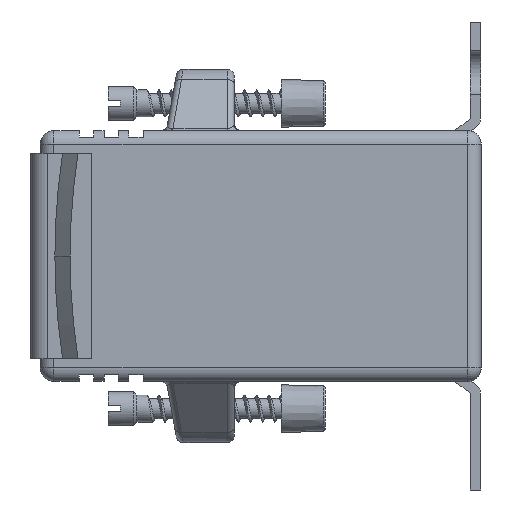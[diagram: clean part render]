
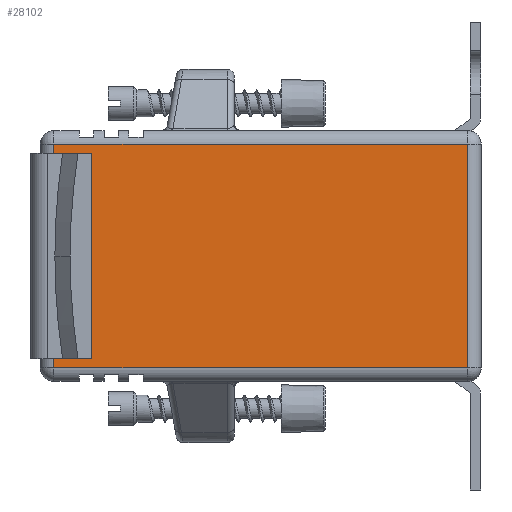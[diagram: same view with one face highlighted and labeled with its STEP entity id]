
A CAD part, left-side view. The second image highlights one B-rep face of the part: STEP entity #28102.
In plain terms, the highlighted planar face has unit normal (-1, 0, 0).
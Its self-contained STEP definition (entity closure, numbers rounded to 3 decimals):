
#2948 = ORIENTED_EDGE ( 'NONE', *, *, #55529, .F. ) ;
#2958 = ORIENTED_EDGE ( 'NONE', *, *, #55530, .F. ) ;
#2969 = ORIENTED_EDGE ( 'NONE', *, *, #55527, .T. ) ;
#2975 = ORIENTED_EDGE ( 'NONE', *, *, #55531, .T. ) ;
#2984 = ORIENTED_EDGE ( 'NONE', *, *, #55532, .T. ) ;
#3000 = ORIENTED_EDGE ( 'NONE', *, *, #55533, .T. ) ;
#3005 = ORIENTED_EDGE ( 'NONE', *, *, #55535, .T. ) ;
#3016 = ORIENTED_EDGE ( 'NONE', *, *, #55537, .T. ) ;
#12338 = CARTESIAN_POINT ( 'NONE',  ( -57.5, 63., 15.1 ) ) ;
#12511 = CARTESIAN_POINT ( 'NONE',  ( -57.5, 57.4, 15.1 ) ) ;
#12544 = CARTESIAN_POINT ( 'NONE',  ( -57.5, 63., -16.5 ) ) ;
#12546 = CARTESIAN_POINT ( 'NONE',  ( -57.5, 63., 16.5 ) ) ;
#12553 = CARTESIAN_POINT ( 'NONE',  ( -57.5, 2., -16.5 ) ) ;
#12566 = CARTESIAN_POINT ( 'NONE',  ( -57.5, 57.4, -15.1 ) ) ;
#12571 = CARTESIAN_POINT ( 'NONE',  ( -57.5, 63., -15.1 ) ) ;
#12577 = CARTESIAN_POINT ( 'NONE',  ( -57.5, 2., 16.5 ) ) ;
#22382 = LINE ( 'NONE', #24836, #60319 ) ;
#22432 = LINE ( 'NONE', #24832, #60433 ) ;
#22623 = LINE ( 'NONE', #24860, #60455 ) ;
#22745 = LINE ( 'NONE', #24845, #60482 ) ;
#22827 = LINE ( 'NONE', #24840, #60425 ) ;
#22851 = LINE ( 'NONE', #24842, #60438 ) ;
#22923 = LINE ( 'NONE', #24827, #60436 ) ;
#22937 = LINE ( 'NONE', #24838, #60323 ) ;
#24826 = DIRECTION ( 'NONE',  ( 0., 0., -1. ) ) ;
#24827 = CARTESIAN_POINT ( 'NONE',  ( -57.5, 63., 18.5 ) ) ;
#24831 = DIRECTION ( 'NONE',  ( 0., 1., 0. ) ) ;
#24832 = CARTESIAN_POINT ( 'NONE',  ( -57.5, 0., 16.5 ) ) ;
#24835 = DIRECTION ( 'NONE',  ( 0., 0., 1. ) ) ;
#24836 = CARTESIAN_POINT ( 'NONE',  ( -57.5, 2., 18.5 ) ) ;
#24837 = DIRECTION ( 'NONE',  ( 0., -1., 0. ) ) ;
#24838 = CARTESIAN_POINT ( 'NONE',  ( -57.5, 2., -16.5 ) ) ;
#24839 = DIRECTION ( 'NONE',  ( 0., 0., -1. ) ) ;
#24840 = CARTESIAN_POINT ( 'NONE',  ( -57.5, 63., 18.5 ) ) ;
#24841 = DIRECTION ( 'NONE',  ( 0., -1., 0. ) ) ;
#24842 = CARTESIAN_POINT ( 'NONE',  ( -57.5, 57.4, -15.1 ) ) ;
#24843 = DIRECTION ( 'NONE',  ( 0., 1., 0. ) ) ;
#24845 = CARTESIAN_POINT ( 'NONE',  ( -57.5, 57.4, 15.1 ) ) ;
#24851 = DIRECTION ( 'NONE',  ( 0., 0., -1. ) ) ;
#24860 = CARTESIAN_POINT ( 'NONE',  ( -57.5, 57.4, 134.411 ) ) ;
#28102 = ADVANCED_FACE ( 'NONE', ( #59875 ), #57861, .F. ) ;
#35350 = EDGE_LOOP ( 'NONE', ( #2948, #2969, #2958, #2975, #2984, #3000, #3005, #3016 ) ) ;
#55527 = EDGE_CURVE ( 'NONE', #66963, #62108, #22623, .T. ) ;
#55529 = EDGE_CURVE ( 'NONE', #66963, #67439, #22745, .T. ) ;
#55530 = EDGE_CURVE ( 'NONE', #61997, #62108, #22851, .T. ) ;
#55531 = EDGE_CURVE ( 'NONE', #61997, #62684, #22827, .T. ) ;
#55532 = EDGE_CURVE ( 'NONE', #62684, #62514, #22937, .T. ) ;
#55533 = EDGE_CURVE ( 'NONE', #62514, #61896, #22382, .T. ) ;
#55535 = EDGE_CURVE ( 'NONE', #61896, #62671, #22432, .T. ) ;
#55537 = EDGE_CURVE ( 'NONE', #62671, #67439, #22923, .T. ) ;
#57858 = DIRECTION ( 'NONE',  ( 0., 0., -1. ) ) ;
#57859 = DIRECTION ( 'NONE',  ( 1., 0., 0. ) ) ;
#57860 = CARTESIAN_POINT ( 'NONE',  ( -57.5, 0., 18.5 ) ) ;
#57861 = PLANE ( 'NONE',  #79312 ) ;
#59875 = FACE_OUTER_BOUND ( 'NONE', #35350, .T. ) ;
#60319 = VECTOR ( 'NONE', #24835, 1000. ) ;
#60323 = VECTOR ( 'NONE', #24837, 1000. ) ;
#60425 = VECTOR ( 'NONE', #24839, 1000. ) ;
#60433 = VECTOR ( 'NONE', #24831, 1000. ) ;
#60436 = VECTOR ( 'NONE', #24826, 1000. ) ;
#60438 = VECTOR ( 'NONE', #24841, 1000. ) ;
#60455 = VECTOR ( 'NONE', #24851, 1000. ) ;
#60482 = VECTOR ( 'NONE', #24843, 1000. ) ;
#61896 = VERTEX_POINT ( 'NONE', #12577 ) ;
#61997 = VERTEX_POINT ( 'NONE', #12571 ) ;
#62108 = VERTEX_POINT ( 'NONE', #12566 ) ;
#62514 = VERTEX_POINT ( 'NONE', #12553 ) ;
#62671 = VERTEX_POINT ( 'NONE', #12546 ) ;
#62684 = VERTEX_POINT ( 'NONE', #12544 ) ;
#66963 = VERTEX_POINT ( 'NONE', #12511 ) ;
#67439 = VERTEX_POINT ( 'NONE', #12338 ) ;
#79312 = AXIS2_PLACEMENT_3D ( 'NONE', #57860, #57859, #57858 ) ;
